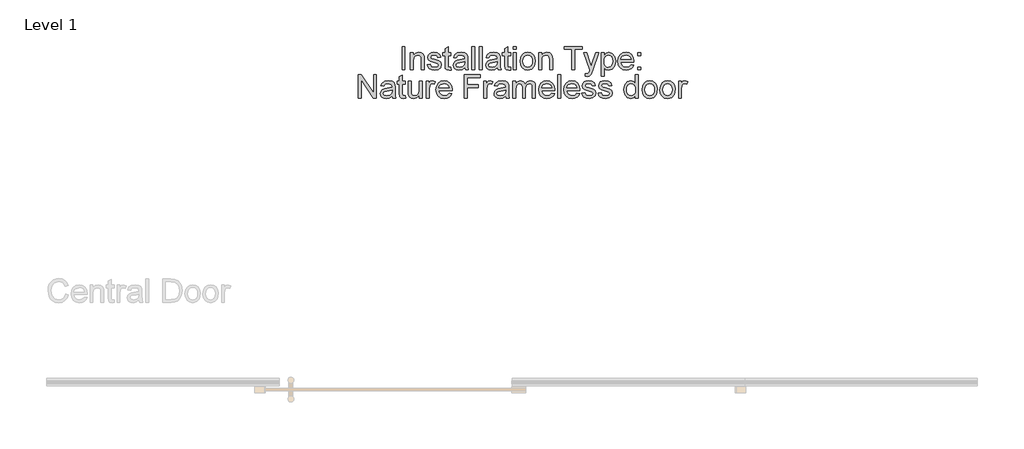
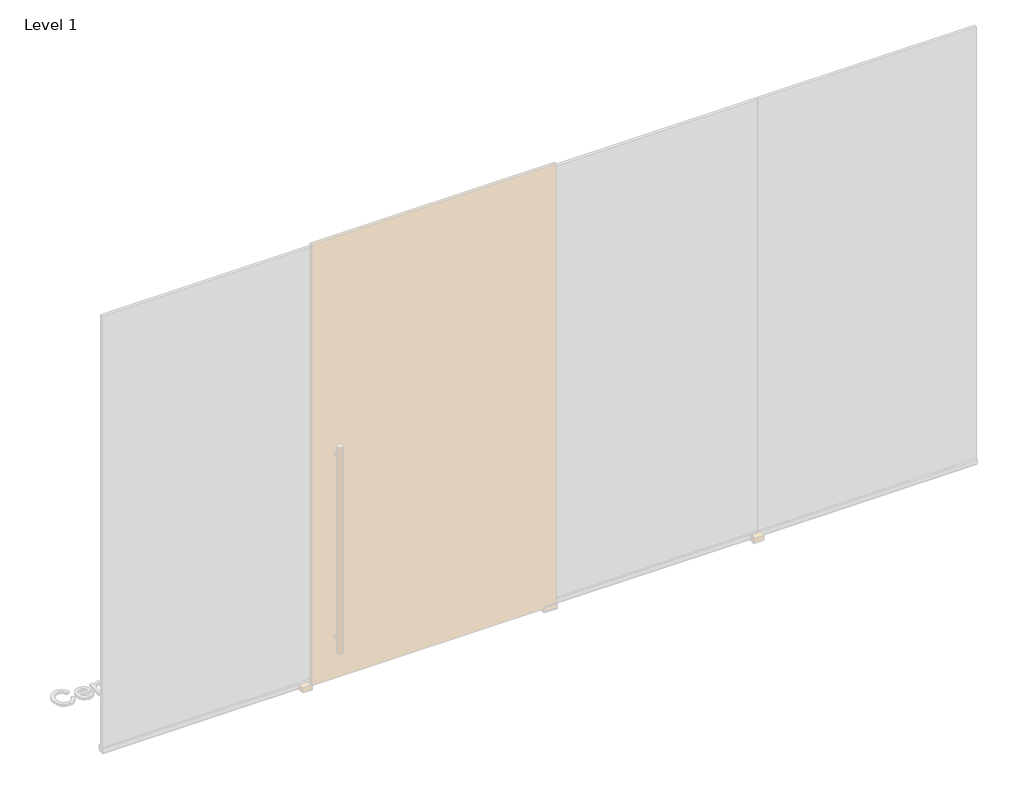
# One storey, part 3 of 3: 1 proxy.
"""IFC4 building model written with IfcOpenShell, lengths in millimetres."""

from ifc_helpers import new_model, si_unit, origin, origin_with_axes, place, context, project, spatial, polyline, outline, extrude, element, save

model = new_model("IFC4")

# Units and contexts
model_context = context("Model", 3, world=origin())
ifc_project = project(units=[si_unit("LENGTHUNIT", "METRE", prefix="MILLI")], contexts=[model_context])

# Site, building, storey
site = spatial("IfcSite", under=ifc_project)
building = spatial("IfcBuilding", under=site)
storey = spatial("IfcBuildingStorey", under=building, Name="Level 1", Elevation=0.0)

# Proxy
placement = place(None, origin())
element("IfcBuildingElementProxy", 1, Name="100mm Arial", ObjectType="100mm Arial", at=placement, inside=storey, context=model_context, shape_type="SweptSolid", body=[
    extrude(outline(polyline([(-4467.9108047, 3222.7271989), (-4467.9108047, 3323.183509), (-4455.3537659, 3323.183509), (-4455.3537659, 3222.7271989), (-4467.9108047, 3222.7271989)])), origin_with_axes(), (0.0, 0.0, 1.0), 10.0),
    extrude(outline(polyline([(-4431.8093182, 3222.7271989), (-4431.8093182, 3296.4998017), (-4419.2522794, 3296.4998017), (-4419.2522794, 3286.1991058), (-4409.6505594, 3295.1018501), (-4396.5416976, 3298.0694315), (-4384.6836346, 3295.6781985), (-4376.5902307, 3289.3996791), (-4372.8255716, 3280.1658411), (-4372.163384, 3268.0257352), (-4372.163384, 3222.7271989), (-4384.7204228, 3222.7271989), (-4384.7204228, 3266.3334781), (-4386.1674253, 3277.4435143), (-4391.2809851, 3283.3173635), (-4399.9016865, 3285.5123927), (-4413.525583, 3280.582774), (-4417.8206053, 3273.4397319), (-4419.2522794, 3261.8698432), (-4419.2522794, 3222.7271989), (-4431.8093182, 3222.7271989)])), origin_with_axes(), (0.0, 0.0, 1.0), 10.0),
    extrude(outline(polyline([(-4359.6063453, 3244.7020167), (-4347.0493065, 3246.2716466), (-4341.236771, 3236.9519694), (-4327.9194428, 3233.7146078), (-4315.1171493, 3236.6821892), (-4310.94782, 3243.6474217), (-4315.1416748, 3249.2882789), (-4328.0665956, 3252.868997), (-4346.9757301, 3259.0126263), (-4355.2285495, 3266.1863253), (-4358.0367154, 3276.3153429), (-4355.7803725, 3285.6718083), (-4349.6244805, 3292.8209817), (-4341.6414412, 3296.5365899), (-4330.8379733, 3298.0694315), (-4315.5586077, 3295.6046221), (-4305.846523, 3288.9336953), (-4301.530041, 3277.6642435), (-4314.0870797, 3276.0946137), (-4318.808232, 3283.0230579), (-4329.8569546, 3285.5123927), (-4341.8744331, 3283.1334225), (-4345.4796767, 3277.5906671), (-4343.9836232, 3273.9363726), (-4339.2992591, 3271.1649949), (-4328.4835285, 3268.4917191), (-4310.0526405, 3262.5810817), (-4301.4932528, 3255.8856294), (-4298.3907813, 3244.9717969), (-4302.032813, 3232.9543184), (-4312.5419754, 3224.2355151), (-4328.091121, 3221.157569), (-4340.752393, 3222.6413598), (-4349.9923625, 3227.0927319), (-4356.1605173, 3234.4626345), (-4359.6063453, 3244.7020167)])), origin_with_axes(), (0.0, 0.0, 1.0), 10.0),
    extrude(outline(polyline([(-4257.5804053, 3233.199573), (-4256.0107754, 3222.3593169), (-4265.404029, 3221.157569), (-4275.9254541, 3223.2422337), (-4281.1739039, 3228.7114127), (-4282.6944828, 3242.9607086), (-4282.6944828, 3283.9427629), (-4292.1122619, 3283.9427629), (-4292.1122619, 3296.4998017), (-4282.6944828, 3296.4998017), (-4282.6944828, 3314.4279176), (-4270.137444, 3321.8100829), (-4270.137444, 3296.4998017), (-4257.5804053, 3296.4998017), (-4257.5804053, 3283.9427629), (-4270.137444, 3283.9427629), (-4270.137444, 3243.3285906), (-4269.4752565, 3236.8538675), (-4267.3292782, 3234.5607364), (-4263.0495843, 3233.7146078), (-4257.5804053, 3233.199573)])), origin_with_axes(), (0.0, 0.0, 1.0), 10.0),
    extrude(outline(polyline([(-4197.9344711, 3232.144978), (-4210.1113652, 3223.6346411), (-4223.5635835, 3221.157569), (-4234.0574174, 3222.6474911), (-4241.7982677, 3227.1172574), (-4246.5715366, 3233.9046802), (-4248.1626262, 3242.347572), (-4245.7591305, 3252.2803858), (-4239.4438229, 3259.4908729), (-4230.6514432, 3263.6111513), (-4219.7866616, 3265.4996122), (-4198.0080475, 3269.8160943), (-4197.9344711, 3272.6119974), (-4201.3925619, 3281.8826237), (-4215.2739758, 3285.5123927), (-4227.9781674, 3283.0966343), (-4234.0359576, 3274.5249838), (-4246.5929964, 3276.0946137), (-4241.1606056, 3288.3573468), (-4230.2222476, 3295.5433085), (-4213.6552951, 3298.0694315), (-4198.4372432, 3295.8376141), (-4189.8410672, 3290.233545), (-4185.990569, 3281.7109454), (-4185.3774324, 3270.7235365), (-4185.3774324, 3255.1008145), (-4184.7397702, 3233.2854122), (-4182.2381727, 3222.7271989), (-4194.7952114, 3222.7271989), (-4197.9344711, 3232.144978)]), holes=[polyline([(-4197.9344711, 3257.2590555), (-4218.1925063, 3253.4085573), (-4228.9959743, 3251.3729436), (-4233.8888048, 3248.0620056), (-4235.6055874, 3243.2304888), (-4231.8654538, 3236.4369346), (-4220.8903076, 3233.7146078), (-4208.1861161, 3236.7189774), (-4199.9946103, 3243.9907782), (-4198.0080475, 3253.7028629), (-4197.9344711, 3257.2590555)])]), origin_with_axes(), (0.0, 0.0, 1.0), 10.0),
    extrude(outline(polyline([(-4168.1115041, 3222.7271989), (-4168.1115041, 3323.183509), (-4155.5544653, 3323.183509), (-4155.5544653, 3222.7271989), (-4168.1115041, 3222.7271989)])), origin_with_axes(), (0.0, 0.0, 1.0), 10.0),
    extrude(outline(polyline([(-4136.7189071, 3222.7271989), (-4136.7189071, 3323.183509), (-4124.1618684, 3323.183509), (-4124.1618684, 3222.7271989), (-4136.7189071, 3222.7271989)])), origin_with_axes(), (0.0, 0.0, 1.0), 10.0),
    extrude(outline(polyline([(-4058.2374148, 3232.144978), (-4070.4143089, 3223.6346411), (-4083.8665272, 3221.157569), (-4094.3603611, 3222.6474911), (-4102.1012114, 3227.1172574), (-4106.8744803, 3233.9046802), (-4108.4655699, 3242.347572), (-4106.0620742, 3252.2803858), (-4099.7467666, 3259.4908729), (-4090.9543869, 3263.6111513), (-4080.0896053, 3265.4996122), (-4058.3109912, 3269.8160943), (-4058.2374148, 3272.6119974), (-4061.6955056, 3281.8826237), (-4075.5769195, 3285.5123927), (-4088.2811111, 3283.0966343), (-4094.3389013, 3274.5249838), (-4106.8959401, 3276.0946137), (-4101.4635493, 3288.3573468), (-4090.5251913, 3295.5433085), (-4073.9582388, 3298.0694315), (-4058.7401869, 3295.8376141), (-4050.1440109, 3290.233545), (-4046.2935127, 3281.7109454), (-4045.6803761, 3270.7235365), (-4045.6803761, 3255.1008145), (-4045.0427139, 3233.2854122), (-4042.5411164, 3222.7271989), (-4055.0981551, 3222.7271989), (-4058.2374148, 3232.144978)]), holes=[polyline([(-4058.2374148, 3257.2590555), (-4078.49545, 3253.4085573), (-4089.298918, 3251.3729436), (-4094.1917485, 3248.0620056), (-4095.9085311, 3243.2304888), (-4092.1683975, 3236.4369346), (-4081.1932513, 3233.7146078), (-4068.4890598, 3236.7189774), (-4060.297554, 3243.9907782), (-4058.3109912, 3253.7028629), (-4058.2374148, 3257.2590555)])]), origin_with_axes(), (0.0, 0.0, 1.0), 10.0),
    extrude(outline(polyline([(-4001.7307404, 3233.199573), (-4000.1611105, 3222.3593169), (-4009.5543641, 3221.157569), (-4020.0757892, 3223.2422337), (-4025.324239, 3228.7114127), (-4026.8448179, 3242.9607086), (-4026.8448179, 3283.9427629), (-4036.262597, 3283.9427629), (-4036.262597, 3296.4998017), (-4026.8448179, 3296.4998017), (-4026.8448179, 3314.4279176), (-4014.2877791, 3321.8100829), (-4014.2877791, 3296.4998017), (-4001.7307404, 3296.4998017), (-4001.7307404, 3283.9427629), (-4014.2877791, 3283.9427629), (-4014.2877791, 3243.3285906), (-4013.6255915, 3236.8538675), (-4011.4796132, 3234.5607364), (-4007.1999194, 3233.7146078), (-4001.7307404, 3233.199573)])), origin_with_axes(), (0.0, 0.0, 1.0), 10.0),
    extrude(outline(polyline([(-3989.1737016, 3310.6264703), (-3989.1737016, 3323.183509), (-3976.6166628, 3323.183509), (-3976.6166628, 3310.6264703), (-3989.1737016, 3310.6264703)])), origin_with_axes(), (0.0, 0.0, 1.0), 10.0),
    extrude(outline(polyline([(-3989.1737016, 3222.7271989), (-3989.1737016, 3296.4998017), (-3976.6166628, 3296.4998017), (-3976.6166628, 3222.7271989), (-3989.1737016, 3222.7271989)])), origin_with_axes(), (0.0, 0.0, 1.0), 10.0),
    extrude(outline(polyline([(-3960.9203644, 3259.6135003), (-3958.204169, 3277.4005947), (-3950.0555828, 3289.9024512), (-3939.9878788, 3296.0276864), (-3927.9336121, 3298.0694315), (-3914.7419769, 3295.5831624), (-3904.2052234, 3288.1243549), (-3897.298239, 3276.2816203), (-3894.9959108, 3260.6435699), (-3899.0671382, 3238.30087), (-3910.9252012, 3225.6579921), (-3927.9336121, 3221.157569), (-3941.2846629, 3223.6346411), (-3951.8091536, 3231.0658574), (-3958.6425617, 3243.1569124), (-3960.9203644, 3259.6135003)]), holes=[polyline([(-3948.3633256, 3259.6380257), (-3946.9101917, 3248.2735378), (-3942.5507901, 3240.1770682), (-3935.9902278, 3235.3302229), (-3927.9336121, 3233.7146078), (-3919.9137846, 3235.33942), (-3913.3654851, 3240.2138564), (-3909.0060835, 3248.4176249), (-3907.5529496, 3260.0304332), (-3909.0152805, 3271.0638274), (-3913.4022733, 3279.0499324), (-3919.9597699, 3283.8967776), (-3927.9336121, 3285.5123927), (-3935.9902278, 3283.902909), (-3942.5507901, 3279.0744578), (-3946.9101917, 3270.9963823), (-3948.3633256, 3259.6380257)])]), origin_with_axes(), (0.0, 0.0, 1.0), 10.0),
    extrude(outline(polyline([(-3880.8692422, 3222.7271989), (-3880.8692422, 3296.4998017), (-3868.3122035, 3296.4998017), (-3868.3122035, 3286.1991058), (-3858.7104834, 3295.1018501), (-3845.6016216, 3298.0694315), (-3833.7435586, 3295.6781985), (-3825.6501547, 3289.3996791), (-3821.8854957, 3280.1658411), (-3821.2233081, 3268.0257352), (-3821.2233081, 3222.7271989), (-3833.7803468, 3222.7271989), (-3833.7803468, 3266.3334781), (-3835.2273494, 3277.4435143), (-3840.3409091, 3283.3173635), (-3848.9616105, 3285.5123927), (-3862.5855071, 3280.582774), (-3866.8805294, 3273.4397319), (-3868.3122035, 3261.8698432), (-3868.3122035, 3222.7271989), (-3880.8692422, 3222.7271989)])), origin_with_axes(), (0.0, 0.0, 1.0), 10.0),
    extrude(outline(polyline([(-3738.0329262, 3222.7271989), (-3738.0329262, 3310.6264703), (-3770.995153, 3310.6264703), (-3770.995153, 3323.183509), (-3692.5136607, 3323.183509), (-3692.5136607, 3310.6264703), (-3725.4758875, 3310.6264703), (-3725.4758875, 3222.7271989), (-3738.0329262, 3222.7271989)])), origin_with_axes(), (0.0, 0.0, 1.0), 10.0),
    extrude(outline(polyline([(-3679.9566219, 3194.4738617), (-3681.5262518, 3206.5649166), (-3675.1496305, 3205.4612706), (-3669.1899422, 3206.8469594), (-3665.5356477, 3210.7097204), (-3662.1020824, 3219.9558212), (-3661.1210638, 3222.996979), (-3687.8047712, 3296.4998017), (-3674.5610193, 3296.4998017), (-3660.4098252, 3255.5422729), (-3655.4802065, 3239.1592613), (-3650.5505878, 3253.6292865), (-3636.0069862, 3296.4998017), (-3622.8613363, 3296.4998017), (-3648.5394995, 3220.9613653), (-3655.2104264, 3204.5783538), (-3662.4944899, 3195.7246604), (-3672.280151, 3192.9042318), (-3679.9566219, 3194.4738617)])), origin_with_axes(), (0.0, 0.0, 1.0), 10.0),
    extrude(outline(polyline([(-3612.4625385, 3194.4738617), (-3612.4625385, 3296.4998017), (-3599.9054998, 3296.4998017), (-3599.9054998, 3284.1880176), (-3591.2234847, 3294.599078), (-3579.5003118, 3298.0694315), (-3563.5832841, 3293.2133892), (-3553.1844864, 3279.5281789), (-3549.6773447, 3260.177586), (-3553.6382075, 3239.8337117), (-3565.1406512, 3225.9768232), (-3581.0208907, 3221.157569), (-3591.9469859, 3224.3826679), (-3599.9054998, 3232.5373854), (-3599.9054998, 3194.4738617), (-3612.4625385, 3194.4738617)]), holes=[polyline([(-3599.9054998, 3259.0248891), (-3598.5474021, 3247.7677), (-3594.473109, 3239.8950253), (-3588.461304, 3235.2597122), (-3581.2906708, 3233.7146078), (-3574.0035416, 3235.3148945), (-3567.8384525, 3240.1157545), (-3563.6354007, 3248.2766035), (-3562.2343835, 3259.9568568), (-3563.6016782, 3271.1527322), (-3567.7035625, 3279.1357715), (-3573.7061703, 3283.9182374), (-3580.775636, 3285.5123927), (-3587.8726928, 3283.8170699), (-3594.105227, 3278.7311013), (-3598.4554316, 3270.4139025), (-3599.9054998, 3259.0248891)])]), origin_with_axes(), (0.0, 0.0, 1.0), 10.0),
    extrude(outline(polyline([(-3483.900044, 3244.7020167), (-3471.5882599, 3243.1323869), (-3476.0243036, 3233.8556292), (-3483.1029663, 3226.9210536), (-3492.6648325, 3222.5984402), (-3504.5504866, 3221.157569), (-3519.2841605, 3223.6438382), (-3530.6210573, 3231.1026456), (-3537.8499385, 3243.0496134), (-3540.2595656, 3259.0003636), (-3537.8254131, 3275.4876084), (-3530.5229555, 3287.8177866), (-3519.3393428, 3295.5065203), (-3505.2617251, 3298.0694315), (-3491.6225002, 3295.5126516), (-3480.7239961, 3287.842312), (-3473.5778883, 3275.5366593), (-3471.1958524, 3259.07394), (-3471.2694288, 3255.6894257), (-3527.7025268, 3255.6894257), (-3525.5289574, 3246.2900407), (-3520.479777, 3239.3799905), (-3513.1926478, 3235.1309535), (-3504.305232, 3233.7146078), (-3491.9934479, 3236.3388327), (-3483.900044, 3244.7020167)]), holes=[polyline([(-3527.7025268, 3268.2464644), (-3483.7528912, 3268.2464644), (-3488.7806118, 3279.6262808), (-3496.1014635, 3284.0408648), (-3505.3107761, 3285.5123927), (-3520.7740826, 3280.8157659), (-3525.639322, 3275.3251272), (-3527.7025268, 3268.2464644)])]), origin_with_axes(), (0.0, 0.0, 1.0), 10.0),
    extrude(outline(polyline([(-3455.4995539, 3283.9427629), (-3455.4995539, 3296.4998017), (-3442.9425152, 3296.4998017), (-3442.9425152, 3283.9427629), (-3455.4995539, 3283.9427629)])), origin_with_axes(), (0.0, 0.0, 1.0), 10.0),
    extrude(outline(polyline([(-3455.4995539, 3222.7271989), (-3455.4995539, 3235.2842377), (-3442.9425152, 3235.2842377), (-3442.9425152, 3222.7271989), (-3455.4995539, 3222.7271989)])), origin_with_axes(), (0.0, 0.0, 1.0), 10.0),
    extrude(outline(polyline([(-4656.2663862, 3100.752381), (-4656.2663862, 3201.2086912), (-4642.8264306, 3201.2086912), (-4590.3419327, 3121.6235529), (-4590.3419327, 3201.2086912), (-4577.7848939, 3201.2086912), (-4577.7848939, 3100.752381), (-4591.2248494, 3100.752381), (-4643.7093474, 3180.3620448), (-4643.7093474, 3100.752381), (-4656.2663862, 3100.752381)])), origin_with_axes(), (0.0, 0.0, 1.0), 10.0),
    extrude(outline(polyline([(-4510.2908105, 3110.1701601), (-4522.4677045, 3101.6598233), (-4535.9199228, 3099.1827512), (-4546.4137567, 3100.6726733), (-4554.1546071, 3105.1424395), (-4558.9278759, 3111.9298623), (-4560.5189656, 3120.3727541), (-4558.1154699, 3130.305568), (-4551.8001623, 3137.5160551), (-4543.0077826, 3141.6363334), (-4532.143001, 3143.5247944), (-4510.3643869, 3147.8412764), (-4510.2908105, 3150.6371796), (-4513.7489013, 3159.9078059), (-4527.6303152, 3163.5375749), (-4540.3345068, 3161.1218165), (-4546.392297, 3152.550166), (-4558.9493357, 3154.1197958), (-4553.5169449, 3166.382529), (-4542.5785869, 3173.5684906), (-4526.0116344, 3176.0946137), (-4510.7935826, 3173.8627962), (-4502.1974066, 3168.2587272), (-4498.3469084, 3159.7361276), (-4497.7337717, 3148.7487187), (-4497.7337717, 3133.1259966), (-4497.0961096, 3111.3105943), (-4494.594512, 3100.752381), (-4507.1515508, 3100.752381), (-4510.2908105, 3110.1701601)]), holes=[polyline([(-4510.2908105, 3135.2842377), (-4530.5488457, 3131.4337394), (-4541.3523136, 3129.3981257), (-4546.2451442, 3126.0871878), (-4547.9619268, 3121.2556709), (-4544.2217932, 3114.4621167), (-4533.246647, 3111.73979), (-4520.5424554, 3114.7441596), (-4512.3509497, 3122.0159604), (-4510.3643869, 3131.728045), (-4510.2908105, 3135.2842377)])]), origin_with_axes(), (0.0, 0.0, 1.0), 10.0),
    extrude(outline(polyline([(-4453.784136, 3111.2247552), (-4452.2145062, 3100.384499), (-4461.6077598, 3099.1827512), (-4472.1291849, 3101.2674158), (-4477.3776347, 3106.7365948), (-4478.8982136, 3120.9858908), (-4478.8982136, 3161.967945), (-4488.3159927, 3161.967945), (-4488.3159927, 3174.5249838), (-4478.8982136, 3174.5249838), (-4478.8982136, 3192.4530997), (-4466.3411748, 3199.8352651), (-4466.3411748, 3174.5249838), (-4453.784136, 3174.5249838), (-4453.784136, 3161.967945), (-4466.3411748, 3161.967945), (-4466.3411748, 3121.3537728), (-4465.6789872, 3114.8790497), (-4463.5330089, 3112.5859186), (-4459.253315, 3111.73979), (-4453.784136, 3111.2247552)])), origin_with_axes(), (0.0, 0.0, 1.0), 10.0),
    extrude(outline(polyline([(-4394.1382019, 3100.752381), (-4394.1382019, 3113.4320471), (-4403.9729139, 3102.7450752), (-4416.7997328, 3099.1827512), (-4428.6087448, 3101.6843488), (-4436.7511997, 3107.9628681), (-4440.4913333, 3117.208969), (-4441.2270973, 3128.8830909), (-4441.2270973, 3174.5249838), (-4428.6700585, 3174.5249838), (-4428.6700585, 3134.7937283), (-4427.909769, 3121.9914349), (-4422.9433621, 3114.4743795), (-4413.5868967, 3111.73979), (-4403.1022598, 3114.5356931), (-4396.1738156, 3122.1508504), (-4394.1382019, 3136.142629), (-4394.1382019, 3174.5249838), (-4381.5811631, 3174.5249838), (-4381.5811631, 3100.752381), (-4394.1382019, 3100.752381)])), origin_with_axes(), (0.0, 0.0, 1.0), 10.0),
    extrude(outline(polyline([(-4364.3152348, 3100.752381), (-4364.3152348, 3174.5249838), (-4353.3278259, 3174.5249838), (-4353.3278259, 3163.6111513), (-4345.5287276, 3173.6665925), (-4337.6805784, 3176.0946137), (-4325.0744887, 3172.21959), (-4329.2683434, 3160.9624009), (-4338.0975113, 3163.5375749), (-4345.1976338, 3161.0605028), (-4349.7225823, 3154.1933722), (-4351.758196, 3139.5271433), (-4351.758196, 3100.752381), (-4364.3152348, 3100.752381)])), origin_with_axes(), (0.0, 0.0, 1.0), 10.0),
    extrude(outline(polyline([(-4265.5757073, 3122.7271989), (-4253.2639232, 3121.157569), (-4257.6999669, 3111.8808114), (-4264.7786297, 3104.9462358), (-4274.3404958, 3100.6236223), (-4286.22615, 3099.1827512), (-4300.9598239, 3101.6690203), (-4312.2967207, 3109.1278278), (-4319.5256019, 3121.0747956), (-4321.935229, 3137.0255458), (-4319.5010764, 3153.5127905), (-4312.1986188, 3165.8429687), (-4301.0150062, 3173.5317024), (-4286.9373885, 3176.0946137), (-4273.2981635, 3173.5378338), (-4262.3996594, 3165.8674942), (-4255.2535517, 3153.5618415), (-4252.8715157, 3137.0991222), (-4252.9450921, 3133.7146078), (-4309.3781902, 3133.7146078), (-4307.2046207, 3124.3152228), (-4302.1554404, 3117.4051727), (-4294.8683112, 3113.1561356), (-4285.9808953, 3111.73979), (-4273.6691112, 3114.3640149), (-4265.5757073, 3122.7271989)]), holes=[polyline([(-4309.3781902, 3146.2716466), (-4265.4285545, 3146.2716466), (-4270.4562751, 3157.651463), (-4277.7771268, 3162.0660469), (-4286.9864394, 3163.5375749), (-4302.449746, 3158.8409481), (-4307.3149853, 3153.3503093), (-4309.3781902, 3146.2716466)])]), origin_with_axes(), (0.0, 0.0, 1.0), 10.0),
    extrude(outline(polyline([(-4199.504101, 3100.752381), (-4199.504101, 3201.2086912), (-4132.0100176, 3201.2086912), (-4132.0100176, 3188.6516524), (-4186.9470622, 3188.6516524), (-4186.9470622, 3158.8286853), (-4139.8581668, 3158.8286853), (-4139.8581668, 3146.2716466), (-4186.9470622, 3146.2716466), (-4186.9470622, 3100.752381), (-4199.504101, 3100.752381)])), origin_with_axes(), (0.0, 0.0, 1.0), 10.0),
    extrude(outline(polyline([(-4116.3137191, 3100.752381), (-4116.3137191, 3174.5249838), (-4105.3263102, 3174.5249838), (-4105.3263102, 3163.6111513), (-4097.5272119, 3173.6665925), (-4089.6790627, 3176.0946137), (-4077.072973, 3172.21959), (-4081.2668277, 3160.9624009), (-4090.0959956, 3163.5375749), (-4097.1961181, 3161.0605028), (-4101.7210667, 3154.1933722), (-4103.7566804, 3139.5271433), (-4103.7566804, 3100.752381), (-4116.3137191, 3100.752381)])), origin_with_axes(), (0.0, 0.0, 1.0), 10.0),
    extrude(outline(polyline([(-4022.1359284, 3110.1701601), (-4034.3128224, 3101.6598233), (-4047.7650407, 3099.1827512), (-4058.2588746, 3100.6726733), (-4065.9997249, 3105.1424395), (-4070.7729938, 3111.9298623), (-4072.3640834, 3120.3727541), (-4069.9605877, 3130.305568), (-4063.6452802, 3137.5160551), (-4054.8529005, 3141.6363334), (-4043.9881189, 3143.5247944), (-4022.2095048, 3147.8412764), (-4022.1359284, 3150.6371796), (-4025.5940191, 3159.9078059), (-4039.4754331, 3163.5375749), (-4052.1796246, 3161.1218165), (-4058.2374148, 3152.550166), (-4070.7944536, 3154.1197958), (-4065.3620628, 3166.382529), (-4054.4237048, 3173.5684906), (-4037.8567523, 3176.0946137), (-4022.6387004, 3173.8627962), (-4014.0425245, 3168.2587272), (-4010.1920263, 3159.7361276), (-4009.5788896, 3148.7487187), (-4009.5788896, 3133.1259966), (-4008.9412275, 3111.3105943), (-4006.4396299, 3100.752381), (-4018.9966687, 3100.752381), (-4022.1359284, 3110.1701601)]), holes=[polyline([(-4022.1359284, 3135.2842377), (-4042.3939636, 3131.4337394), (-4053.1974315, 3129.3981257), (-4058.090262, 3126.0871878), (-4059.8070447, 3121.2556709), (-4056.0669111, 3114.4621167), (-4045.0917649, 3111.73979), (-4032.3875733, 3114.7441596), (-4024.1960675, 3122.0159604), (-4022.2095048, 3131.728045), (-4022.1359284, 3135.2842377)])]), origin_with_axes(), (0.0, 0.0, 1.0), 10.0),
    extrude(outline(polyline([(-3992.3129613, 3100.752381), (-3992.3129613, 3174.5249838), (-3979.7559225, 3174.5249838), (-3979.7559225, 3162.384878), (-3971.1229584, 3172.3299546), (-3958.8356997, 3176.0946137), (-3946.2541355, 3172.2563782), (-3939.337954, 3161.5019612), (-3929.5400302, 3172.4464505), (-3917.1669324, 3176.0946137), (-3907.7276936, 3174.5771004), (-3900.7471327, 3170.0245607), (-3896.4337163, 3162.3143673), (-3894.9959108, 3151.3238926), (-3894.9959108, 3100.752381), (-3907.5529496, 3100.752381), (-3907.5529496, 3145.9282901), (-3908.7179093, 3156.4129269), (-3912.9362895, 3161.5755376), (-3920.1099884, 3163.5375749), (-3932.4585607, 3158.5098543), (-3936.1465777, 3151.9676861), (-3937.3759167, 3142.3966229), (-3937.3759167, 3100.752381), (-3949.9329554, 3100.752381), (-3949.9329554, 3147.3262416), (-3952.8392232, 3159.4908729), (-3962.3673669, 3163.5375749), (-3971.6625186, 3160.8397736), (-3977.8429361, 3152.9425734), (-3979.7559225, 3137.9575135), (-3979.7559225, 3100.752381), (-3992.3129613, 3100.752381)])), origin_with_axes(), (0.0, 0.0, 1.0), 10.0),
    extrude(outline(polyline([(-3824.5097206, 3122.7271989), (-3812.1979365, 3121.157569), (-3816.6339802, 3111.8808114), (-3823.7126429, 3104.9462358), (-3833.2745091, 3100.6236223), (-3845.1601632, 3099.1827512), (-3859.8938371, 3101.6690203), (-3871.2307339, 3109.1278278), (-3878.4596152, 3121.0747956), (-3880.8692422, 3137.0255458), (-3878.4350897, 3153.5127905), (-3871.1326321, 3165.8429687), (-3859.9490194, 3173.5317024), (-3845.8714017, 3176.0946137), (-3832.2321768, 3173.5378338), (-3821.3336727, 3165.8674942), (-3814.1875649, 3153.5618415), (-3811.805529, 3137.0991222), (-3811.8791054, 3133.7146078), (-3868.3122035, 3133.7146078), (-3866.138634, 3124.3152228), (-3861.0894536, 3117.4051727), (-3853.8023244, 3113.1561356), (-3844.9149086, 3111.73979), (-3832.6031245, 3114.3640149), (-3824.5097206, 3122.7271989)]), holes=[polyline([(-3868.3122035, 3146.2716466), (-3824.3625678, 3146.2716466), (-3829.3902884, 3157.651463), (-3836.7111401, 3162.0660469), (-3845.9204527, 3163.5375749), (-3861.3837592, 3158.8409481), (-3866.2489986, 3153.3503093), (-3868.3122035, 3146.2716466)])]), origin_with_axes(), (0.0, 0.0, 1.0), 10.0),
    extrude(outline(polyline([(-3799.2484902, 3100.752381), (-3799.2484902, 3201.2086912), (-3786.6914515, 3201.2086912), (-3786.6914515, 3100.752381), (-3799.2484902, 3100.752381)])), origin_with_axes(), (0.0, 0.0, 1.0), 10.0),
    extrude(outline(polyline([(-3716.2052612, 3122.7271989), (-3703.8934771, 3121.157569), (-3708.3295208, 3111.8808114), (-3715.4081835, 3104.9462358), (-3724.9700497, 3100.6236223), (-3736.8557038, 3099.1827512), (-3751.5893777, 3101.6690203), (-3762.9262746, 3109.1278278), (-3770.1551558, 3121.0747956), (-3772.5647828, 3137.0255458), (-3770.1306303, 3153.5127905), (-3762.8281727, 3165.8429687), (-3751.64456, 3173.5317024), (-3737.5669424, 3176.0946137), (-3723.9277174, 3173.5378338), (-3713.0292133, 3165.8674942), (-3705.8831055, 3153.5618415), (-3703.5010696, 3137.0991222), (-3703.574646, 3133.7146078), (-3760.0077441, 3133.7146078), (-3757.8341746, 3124.3152228), (-3752.7849942, 3117.4051727), (-3745.497865, 3113.1561356), (-3736.6104492, 3111.73979), (-3724.2986651, 3114.3640149), (-3716.2052612, 3122.7271989)]), holes=[polyline([(-3760.0077441, 3146.2716466), (-3716.0581084, 3146.2716466), (-3721.085829, 3157.651463), (-3728.4066807, 3162.0660469), (-3737.6159933, 3163.5375749), (-3753.0792998, 3158.8409481), (-3757.9445392, 3153.3503093), (-3760.0077441, 3146.2716466)])]), origin_with_axes(), (0.0, 0.0, 1.0), 10.0),
    extrude(outline(polyline([(-3695.6529204, 3122.7271989), (-3683.0958816, 3124.2968287), (-3677.2833461, 3114.9771515), (-3663.9660179, 3111.73979), (-3651.1637244, 3114.7073714), (-3646.9943952, 3121.6726038), (-3651.1882499, 3127.3134611), (-3664.1131707, 3130.8941792), (-3683.0223052, 3137.0378085), (-3691.2751246, 3144.2115074), (-3694.0832905, 3154.340525), (-3691.8269476, 3163.6969904), (-3685.6710556, 3170.8461639), (-3677.6880163, 3174.561772), (-3666.8845484, 3176.0946137), (-3651.6051828, 3173.6298043), (-3641.8930982, 3166.9588774), (-3637.5766161, 3155.6894257), (-3650.1336548, 3154.1197958), (-3654.8548071, 3161.0482401), (-3665.9035297, 3163.5375749), (-3677.9210082, 3161.1586047), (-3681.5262518, 3155.6158493), (-3680.0301983, 3151.9615548), (-3675.3458342, 3149.1901771), (-3664.5301036, 3146.5169012), (-3646.0992156, 3140.6062639), (-3637.5398279, 3133.9108115), (-3634.4373564, 3122.996979), (-3638.0793881, 3110.9795005), (-3648.5885505, 3102.2606972), (-3664.1376961, 3099.1827512), (-3676.7989681, 3100.6665419), (-3686.0389376, 3105.1179141), (-3692.2070924, 3112.4878167), (-3695.6529204, 3122.7271989)])), origin_with_axes(), (0.0, 0.0, 1.0), 10.0),
    extrude(outline(polyline([(-3625.0195773, 3122.7271989), (-3612.4625385, 3124.2968287), (-3606.650003, 3114.9771515), (-3593.3326748, 3111.73979), (-3580.5303814, 3114.7073714), (-3576.3610521, 3121.6726038), (-3580.5549068, 3127.3134611), (-3593.4798276, 3130.8941792), (-3612.3889621, 3137.0378085), (-3620.6417816, 3144.2115074), (-3623.4499475, 3154.340525), (-3621.1936046, 3163.6969904), (-3615.0377125, 3170.8461639), (-3607.0546732, 3174.561772), (-3596.2512053, 3176.0946137), (-3580.9718398, 3173.6298043), (-3571.2597551, 3166.9588774), (-3566.943273, 3155.6894257), (-3579.5003118, 3154.1197958), (-3584.221464, 3161.0482401), (-3595.2701866, 3163.5375749), (-3607.2876651, 3161.1586047), (-3610.8929087, 3155.6158493), (-3609.3968552, 3151.9615548), (-3604.7124912, 3149.1901771), (-3593.8967605, 3146.5169012), (-3575.4658726, 3140.6062639), (-3566.9064848, 3133.9108115), (-3563.8040133, 3122.996979), (-3567.4460451, 3110.9795005), (-3577.9552074, 3102.2606972), (-3593.5043531, 3099.1827512), (-3606.1656251, 3100.6665419), (-3615.4055945, 3105.1179141), (-3621.5737493, 3112.4878167), (-3625.0195773, 3122.7271989)])), origin_with_axes(), (0.0, 0.0, 1.0), 10.0),
    extrude(outline(polyline([(-3464.917333, 3100.752381), (-3464.917333, 3112.5981813), (-3473.2253347, 3102.5366087), (-3484.7093843, 3099.1827512), (-3500.25853, 3104.0387935), (-3511.2459389, 3117.5891137), (-3515.1454881, 3137.565106), (-3511.5525073, 3157.5533611), (-3500.7858275, 3171.3121477), (-3484.7584353, 3176.0946137), (-3473.1824152, 3172.6733111), (-3464.917333, 3163.7828296), (-3464.917333, 3201.2086912), (-3452.3602942, 3201.2086912), (-3452.3602942, 3100.752381), (-3464.917333, 3100.752381)]), holes=[polyline([(-3502.5884493, 3137.614157), (-3501.1721036, 3126.2558004), (-3496.9230666, 3118.1777249), (-3490.7487804, 3113.3492737), (-3483.5566874, 3111.73979), (-3476.3676601, 3113.2756973), (-3470.3497238, 3117.8834193), (-3466.2754307, 3125.6487951), (-3464.917333, 3136.6576638), (-3466.2999562, 3148.6935364), (-3470.4478257, 3157.0383263), (-3476.6190461, 3161.9127627), (-3484.0717222, 3163.5375749), (-3491.3373916, 3161.9771421), (-3497.2909486, 3157.2958437), (-3501.2640741, 3149.2545564), (-3502.5884493, 3137.614157)])]), origin_with_axes(), (0.0, 0.0, 1.0), 10.0),
    extrude(outline(polyline([(-3436.6639958, 3137.6386824), (-3433.9478004, 3155.4257769), (-3425.7992142, 3167.9276334), (-3415.7315103, 3174.0528686), (-3403.6772435, 3176.0946137), (-3390.4856083, 3173.6083445), (-3379.9488549, 3166.1495371), (-3373.0418704, 3154.3068025), (-3370.7395422, 3138.668752), (-3374.8107697, 3116.3260522), (-3386.6688326, 3103.6831743), (-3403.6772435, 3099.1827512), (-3417.0282943, 3101.6598233), (-3427.552785, 3109.0910396), (-3434.3861931, 3121.1820945), (-3436.6639958, 3137.6386824)]), holes=[polyline([(-3424.106957, 3137.6632079), (-3422.6538231, 3126.2987199), (-3418.2944215, 3118.2022503), (-3411.7338592, 3113.3554051), (-3403.6772435, 3111.73979), (-3395.657416, 3113.3646021), (-3389.1091165, 3118.2390385), (-3384.7497149, 3126.442807), (-3383.296581, 3138.0556154), (-3384.7589119, 3149.0890095), (-3389.1459047, 3157.0751145), (-3395.7034013, 3161.9219598), (-3403.6772435, 3163.5375749), (-3411.7338592, 3161.9280912), (-3418.2944215, 3157.09964), (-3422.6538231, 3149.0215645), (-3424.106957, 3137.6632079)])]), origin_with_axes(), (0.0, 0.0, 1.0), 10.0),
    extrude(outline(polyline([(-3359.7521333, 3137.6386824), (-3357.0359379, 3155.4257769), (-3348.8873517, 3167.9276334), (-3338.8196478, 3174.0528686), (-3326.7653811, 3176.0946137), (-3313.5737459, 3173.6083445), (-3303.0369924, 3166.1495371), (-3296.1300079, 3154.3068025), (-3293.8276798, 3138.668752), (-3297.8989072, 3116.3260522), (-3309.7569702, 3103.6831743), (-3326.7653811, 3099.1827512), (-3340.1164318, 3101.6598233), (-3350.6409226, 3109.0910396), (-3357.4743306, 3121.1820945), (-3359.7521333, 3137.6386824)]), holes=[polyline([(-3347.1950945, 3137.6632079), (-3345.7419607, 3126.2987199), (-3341.382559, 3118.2022503), (-3334.8219968, 3113.3554051), (-3326.7653811, 3111.73979), (-3318.7455536, 3113.3646021), (-3312.1972541, 3118.2390385), (-3307.8378524, 3126.442807), (-3306.3847186, 3138.0556154), (-3307.8470495, 3149.0890095), (-3312.2340423, 3157.0751145), (-3318.7915388, 3161.9219598), (-3326.7653811, 3163.5375749), (-3334.8219968, 3161.9280912), (-3341.382559, 3157.09964), (-3345.7419607, 3149.0215645), (-3347.1950945, 3137.6632079)])]), origin_with_axes(), (0.0, 0.0, 1.0), 10.0),
    extrude(outline(polyline([(-3279.7010112, 3100.752381), (-3279.7010112, 3174.5249838), (-3268.7136022, 3174.5249838), (-3268.7136022, 3163.6111513), (-3260.9145039, 3173.6665925), (-3253.0663547, 3176.0946137), (-3240.460265, 3172.21959), (-3244.6541198, 3160.9624009), (-3253.4832876, 3163.5375749), (-3260.5834102, 3161.0605028), (-3265.1083587, 3154.1933722), (-3267.1439724, 3139.5271433), (-3267.1439724, 3100.752381), (-3279.7010112, 3100.752381)])), origin_with_axes(), (0.0, 0.0, 1.0), 10.0),
])

save(model, "model.ifc")
